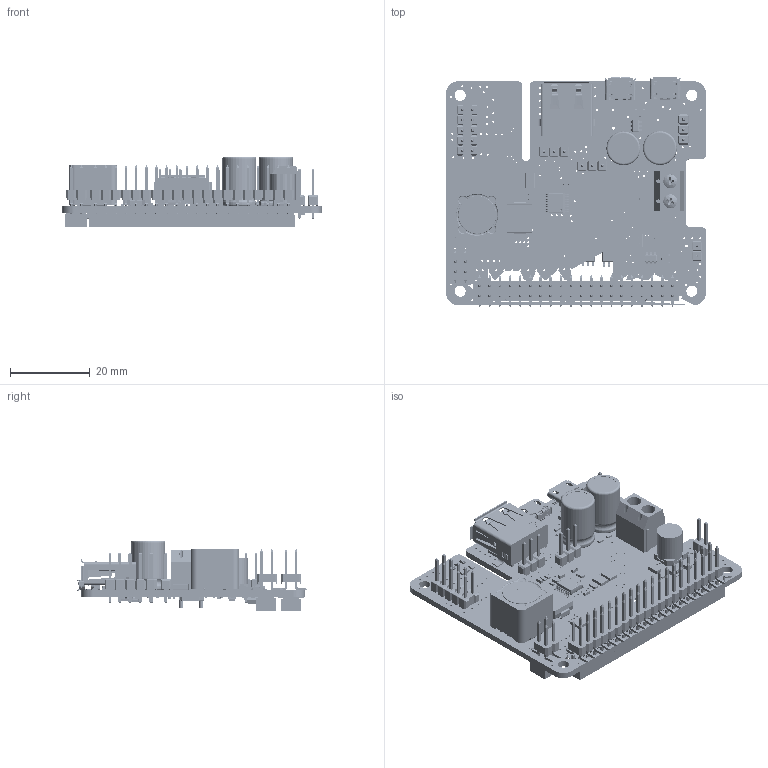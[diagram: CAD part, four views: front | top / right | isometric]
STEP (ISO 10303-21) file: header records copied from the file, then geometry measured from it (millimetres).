
FILE_DESCRIPTION(('for SolidWorks'),'2;1');
FILE_NAME( 'Z:\Entwicklung\StromPi3\Rev12062018\STEP Files\StromPi3.step', '2018-12-10T12:42:10',('Entwicklung3'),(''), 'Open CASCADE STEP processor 6.6','DipTrace','Unknown');
FILE_SCHEMA(('AUTOMOTIVE_DESIGN { 1 0 10303 214 1 1 1 1 }'));
Length unit declared in the file: millimetre
Products named in the file (33): PCB_StromPi3; Board_StromPi3; User_Library-SMD_CAPACITOR_0805; User_Library-SMD_CAPACITOR_1210; User_Library-SMD_CAPACITOR_0603; User_Library-SMD_CAPACITOR_0402; User_Library-CAP_6,6x6,6; User_Library-Aluminum_Electrolytic_Capacitors_8.5h12; CircuitWorks-SOT-23; SMC_DO-214AB; User_Library-FUSER_nanoSMD_fuse_1206; ScrewTerminal_1x02_5mm; Pin_Header_1x3_TH_Pitch_2.54mm; Pin_Header_1x2_TH_Pitch_2.54mm; Pin_Header_2x5_TH_Pitch_2.54mm; BG121-04-X-1-X-X_revC_v2; User_Library-4-pin_2x2_SMT_header_v1_v1_v1; User_Library-SRR1210_inductor; 0603_inductor; User_Library-LED_SMD0603; User_Library-so8-3; User_Library-User_Library-RES0402-2; res0603; User_Library-1210(3225M)_Res; User_Library-40-pin_2x20_SMT_header_v1_v1; BG121-40-X-0-X-X_revC_v1_v2; User_Library-User_Library-MAX_QSOP16; CircuitWorks-SOT-23-5; User_Library-TSSOP20_TP; sot26; microUSB; multicomp_usb; 2SMX_ABM3B
Assembly tree (104 placements, depth 2):
  PCB_StromPi3
    Board_StromPi3
    User_Library-SMD_CAPACITOR_0805  x2
    User_Library-SMD_CAPACITOR_1210  x3
    User_Library-SMD_CAPACITOR_0603  x11
    User_Library-SMD_CAPACITOR_0402  x6
    User_Library-CAP_6,6x6,6
    User_Library-Aluminum_Electrolytic_Capacitors_8.5h12  x2
    CircuitWorks-SOT-23  x7
    SMC_DO-214AB
    User_Library-FUSER_nanoSMD_fuse_1206
    ScrewTerminal_1x02_5mm
    Pin_Header_1x3_TH_Pitch_2.54mm  x3
    Pin_Header_1x2_TH_Pitch_2.54mm
    Pin_Header_2x5_TH_Pitch_2.54mm
    BG121-04-X-1-X-X_revC_v2
    User_Library-4-pin_2x2_SMT_header_v1_v1_v1
    User_Library-SRR1210_inductor
    0603_inductor
    User_Library-LED_SMD0603  x3
    User_Library-so8-3  x2
    User_Library-User_Library-RES0402-2  x17
    res0603  x24
    User_Library-1210(3225M)_Res
    User_Library-40-pin_2x20_SMT_header_v1_v1
    BG121-40-X-0-X-X_revC_v1_v2
    User_Library-User_Library-MAX_QSOP16
    CircuitWorks-SOT-23-5
    User_Library-TSSOP20_TP
    sot26  x3
    microUSB  x2
    multicomp_usb
    2SMX_ABM3B
Bounding box: 65 x 57.6 x 17.75 mm (x, y, z)
Volume: 7172.1 mm3; surface area: 21259.8 mm2
Topology: 65 solids, 326 shells, 14515 faces, 38129 edges, 23928 vertices
Faces by surface type: plane 10178, cylinder 2413, bspline 1327, sphere 490, torus 63, cone 42, revolution 2
Full cylindrical faces by diameter (mm): 0.3 x51, 0.4 x23, 0.5 x145, 0.75 x2, 0.9 x4, 1.02 x11, 1.1 x12, 1.3 x2, 2.8 x4
Entity records: 327928 total; most frequent: CARTESIAN_POINT 73083, ORIENTED_EDGE 47150, DIRECTION 39841, EDGE_CURVE 23596, LINE 18403, VECTOR 18403, VERTEX_POINT 15237, AXIS2_PLACEMENT_3D 10718
